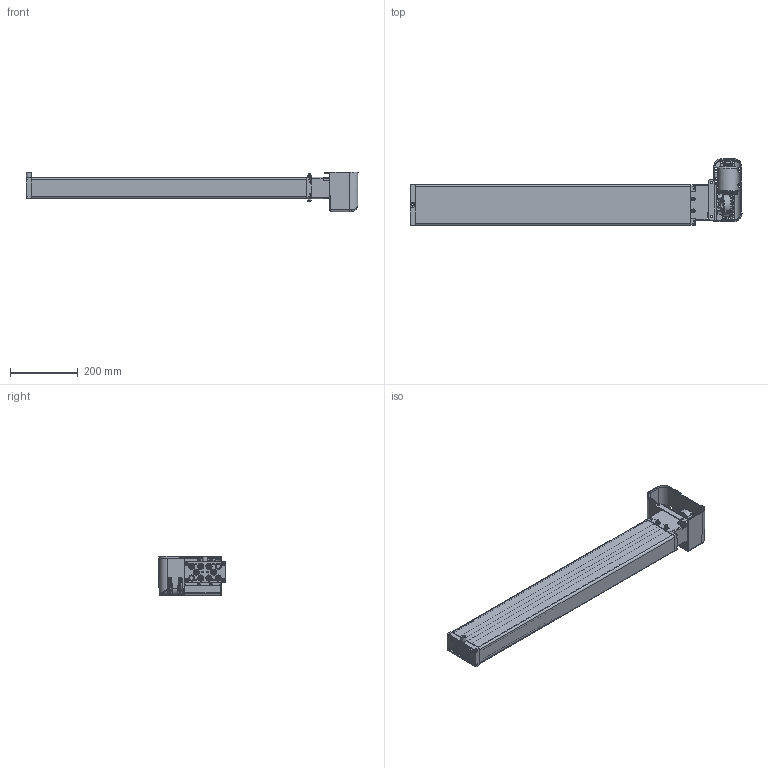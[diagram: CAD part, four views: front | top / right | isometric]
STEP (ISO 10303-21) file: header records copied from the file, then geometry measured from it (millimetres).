
FILE_DESCRIPTION(/* description */ ('Unknown'),/* implementation_level */ '2;1');
FILE_NAME(/* name */ '3X2.20209 Pumpe PB 8860 W mit Antrieb',/* time_stamp */ '2016-11-24T16:11:51+01:00',/* author */ ('Unknown'),/* organization */ ('Unknown'),/* preprocessor_version */ 'ST-DEVELOPER v16.7',/* originating_system */ 'DEX',/* authorisation */ $);
FILE_SCHEMA (('AUTOMOTIVE_DESIGN {1 0 10303 214 3 1 1}'));
Products named in the file (33): 102.00209; 115.10036; 125.00061; 115.00008; 142.00021; 125.00021; 142.00013; 125.00146; 115.00140; 126.00006; 122.00040; 119.00046; 126.00036; 127.00201; 127.00200; 127.00023; 124.00090; Getriebe; Ring; Schraube; Stator; Abdeckplatte; Antriebswelle; 128.00051; 123.00031; 142.00018; 142.00019; 142.00025; 142.00131; 123.00029; 142.00057; 142.00083; 142.00017
Assembly tree (55 placements, depth 3):
  102.00209
    115.10036  x8
      125.00061
      115.00008
      142.00021
      125.00021
    142.00013  x8
    125.00146
    115.00140
      126.00006
      122.00040
    119.00046
    126.00036
    127.00201
      127.00200
      127.00023
    124.00090
      Getriebe
      Ring
      Schraube
      Stator
      Abdeckplatte
      Antriebswelle
    128.00051
    123.00031
    142.00018  x2
    142.00019  x2
    142.00025  x2
    142.00131  x3
    123.00029
    142.00057
    142.00083  x4
    142.00017  x2
Bounding box: 978.45 x 196.04 x 115.45 mm (x, y, z)
Volume: 1505265.9 mm3; surface area: 998167.4 mm2
Topology: 64 solids, 66 shells, 4422 faces, 11062 edges, 6781 vertices
Faces by surface type: plane 1395, cylinder 1190, bspline 1040, cone 495, torus 204, sphere 98
Full cylindrical faces by diameter (mm): 2.5 x4, 3.2 x4, 3.5 x8, 3.9 x5, 4.1 x8, 4.134 x4, 4.2 x10, 4.4 x5, 4.5 x1, 4.917 x4, 5 x12, 5.5 x5, 5.8 x4, 6 x8, 6.4 x2, 6.8 x6, 6.917 x16, 7 x1, 8 x18, 8.5 x10, 9 x2, 9.5 x1, 9.8 x8, 10 x10, 10.3 x1, 10.32 x1, 10.4 x1, 10.5 x4, 11 x5, 12.5 x8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
Entity records: 165442 total; most frequent: CARTESIAN_POINT 80683, ORIENTED_EDGE 16058, DIRECTION 12093, EDGE_CURVE 8029, VERTEX_POINT 5273, AXIS2_PLACEMENT_3D 4681, FACE_BOUND 4022, EDGE_LOOP 4017
